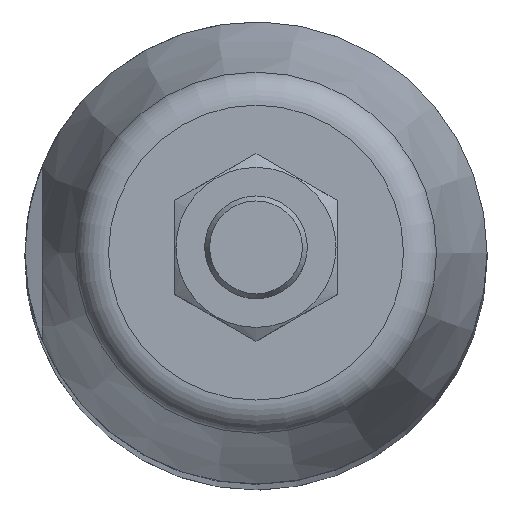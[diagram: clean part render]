
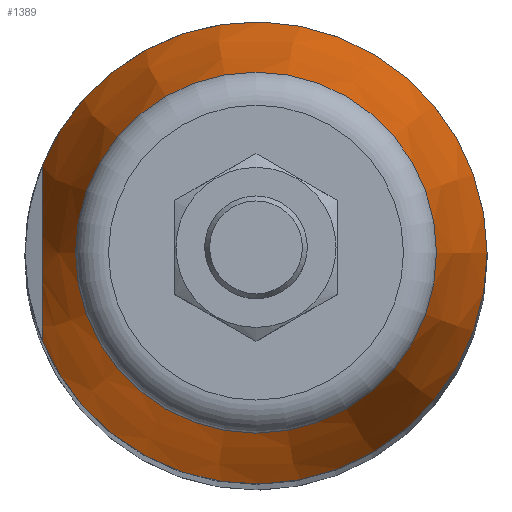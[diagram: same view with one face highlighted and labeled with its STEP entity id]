
A CAD part, top view. The second image highlights one B-rep face of the part: STEP entity #1389.
In plain terms, the highlighted conical face has half-angle 15 degrees and reference radius 24.048 mm.
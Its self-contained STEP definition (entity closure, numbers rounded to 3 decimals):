
#60=(
BOUNDED_CURVE()
B_SPLINE_CURVE(2,(#2337,#2338,#2339),.UNSPECIFIED.,.F.,.F.)
B_SPLINE_CURVE_WITH_KNOTS((3,3),(0.606,3.641),
 .UNSPECIFIED.)
CURVE()
GEOMETRIC_REPRESENTATION_ITEM()
RATIONAL_B_SPLINE_CURVE((1.04,1.123,1.04))
REPRESENTATION_ITEM('')
);
#210=CONICAL_SURFACE('',#1563,24.048,15.);
#338=FACE_BOUND('',#552,.T.);
#410=FACE_OUTER_BOUND('',#551,.T.);
#551=EDGE_LOOP('',(#1173,#1174));
#552=EDGE_LOOP('',(#1175));
#639=CIRCLE('',#1561,27.);
#640=CIRCLE('',#1564,21.096);
#736=VERTEX_POINT('',#2335);
#737=VERTEX_POINT('',#2336);
#745=VERTEX_POINT('',#2365);
#885=EDGE_CURVE('',#736,#737,#60,.T.);
#895=EDGE_CURVE('',#737,#736,#639,.T.);
#896=EDGE_CURVE('',#745,#745,#640,.T.);
#1173=ORIENTED_EDGE('',*,*,#885,.T.);
#1174=ORIENTED_EDGE('',*,*,#895,.T.);
#1175=ORIENTED_EDGE('',*,*,#896,.F.);
#1389=ADVANCED_FACE('',(#410,#338),#210,.T.);
#1561=AXIS2_PLACEMENT_3D('',#2362,#1913,#1914);
#1563=AXIS2_PLACEMENT_3D('',#2364,#1917,#1918);
#1564=AXIS2_PLACEMENT_3D('',#2366,#1919,#1920);
#1913=DIRECTION('center_axis',(-1.,0.,0.));
#1914=DIRECTION('ref_axis',(0.,0.,1.));
#1917=DIRECTION('center_axis',(1.,0.,0.));
#1918=DIRECTION('ref_axis',(0.,0.,1.));
#1919=DIRECTION('center_axis',(-1.,0.,0.));
#1920=DIRECTION('ref_axis',(0.,0.,1.));
#2335=CARTESIAN_POINT('',(-20.,-10.198,25.));
#2336=CARTESIAN_POINT('',(-20.,10.198,25.));
#2337=CARTESIAN_POINT('Ctrl Pts',(-20.,-10.198,25.));
#2338=CARTESIAN_POINT('Ctrl Pts',(-34.375,0.,
25.));
#2339=CARTESIAN_POINT('Ctrl Pts',(-20.,10.198,25.));
#2362=CARTESIAN_POINT('Origin',(-20.,0.,0.));
#2364=CARTESIAN_POINT('Origin',(-31.018,0.,0.));
#2365=CARTESIAN_POINT('',(-42.035,0.,21.096));
#2366=CARTESIAN_POINT('Origin',(-42.035,0.,0.));
